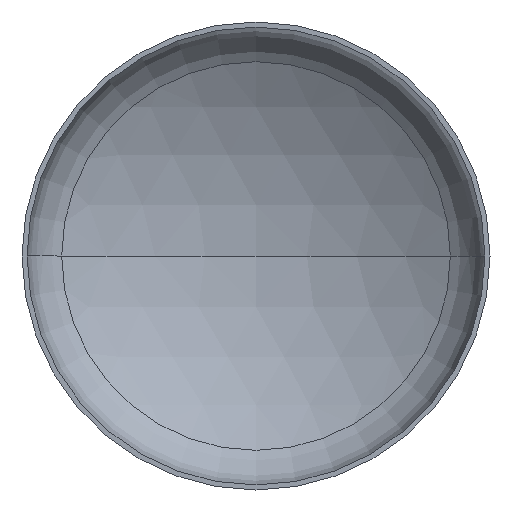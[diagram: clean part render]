
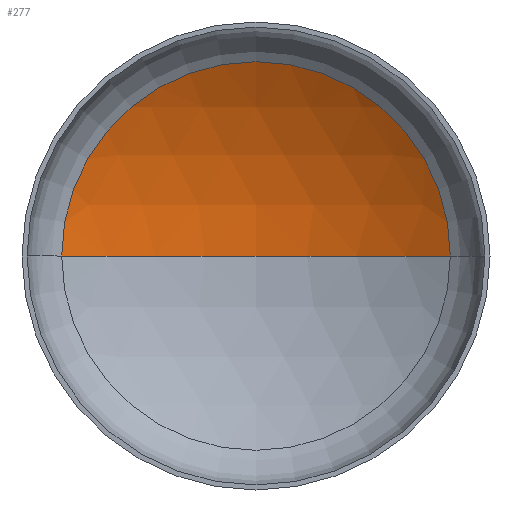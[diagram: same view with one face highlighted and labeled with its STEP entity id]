
A CAD part, front view. The second image highlights one B-rep face of the part: STEP entity #277.
In plain terms, the highlighted spherical face has radius 1040 mm.
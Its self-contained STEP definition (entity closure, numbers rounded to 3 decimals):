
#10 = DIRECTION ( 'NONE',  ( -1., 0., 0. ) ) ;
#18 = AXIS2_PLACEMENT_3D ( 'NONE', #76, #385, #82 ) ;
#33 = AXIS2_PLACEMENT_3D ( 'NONE', #104, #255, #10 ) ;
#36 = AXIS2_PLACEMENT_3D ( 'NONE', #396, #344, #144 ) ;
#39 = AXIS2_PLACEMENT_3D ( 'NONE', #170, #167, #169 ) ;
#50 = CARTESIAN_POINT ( 'NONE',  ( -539.81, 215.949, 0. ) ) ;
#76 = CARTESIAN_POINT ( 'NONE',  ( 0., -672.986, 0. ) ) ;
#82 = DIRECTION ( 'NONE',  ( -1., 0., 0. ) ) ;
#84 = EDGE_CURVE ( 'NONE', #184, #376, #178, .T. ) ;
#85 = VERTEX_POINT ( 'NONE', #283 ) ;
#89 = CIRCLE ( 'NONE', #36, 1040. ) ;
#98 = EDGE_CURVE ( 'NONE', #85, #184, #245, .T. ) ;
#104 = CARTESIAN_POINT ( 'NONE',  ( 0., -672.986, 0. ) ) ;
#105 = EDGE_CURVE ( 'NONE', #85, #376, #89, .T. ) ;
#132 = CARTESIAN_POINT ( 'NONE',  ( 539.81, 215.949, 0. ) ) ;
#144 = DIRECTION ( 'NONE',  ( 1., 0., 0. ) ) ;
#155 = EDGE_LOOP ( 'NONE', ( #223, #381, #356 ) ) ;
#157 = FACE_OUTER_BOUND ( 'NONE', #155, .T. ) ;
#167 = DIRECTION ( 'NONE',  ( 0., -1., 0. ) ) ;
#169 = DIRECTION ( 'NONE',  ( 1., 0., 0. ) ) ;
#170 = CARTESIAN_POINT ( 'NONE',  ( 0., 215.949, 0. ) ) ;
#178 = CIRCLE ( 'NONE', #39, 539.81 ) ;
#184 = VERTEX_POINT ( 'NONE', #132 ) ;
#223 = ORIENTED_EDGE ( 'NONE', *, *, #105, .F. ) ;
#245 = CIRCLE ( 'NONE', #33, 1040. ) ;
#255 = DIRECTION ( 'NONE',  ( 0., 0., -1. ) ) ;
#277 = ADVANCED_FACE ( 'NONE', ( #157 ), #294, .F. ) ;
#283 = CARTESIAN_POINT ( 'NONE',  ( 0., 367.014, 0. ) ) ;
#294 = SPHERICAL_SURFACE ( 'NONE', #18, 1040. ) ;
#344 = DIRECTION ( 'NONE',  ( 0., 0., 1. ) ) ;
#356 = ORIENTED_EDGE ( 'NONE', *, *, #84, .T. ) ;
#376 = VERTEX_POINT ( 'NONE', #50 ) ;
#381 = ORIENTED_EDGE ( 'NONE', *, *, #98, .T. ) ;
#385 = DIRECTION ( 'NONE',  ( 0., 0., -1. ) ) ;
#396 = CARTESIAN_POINT ( 'NONE',  ( 0., -672.986, 0. ) ) ;
